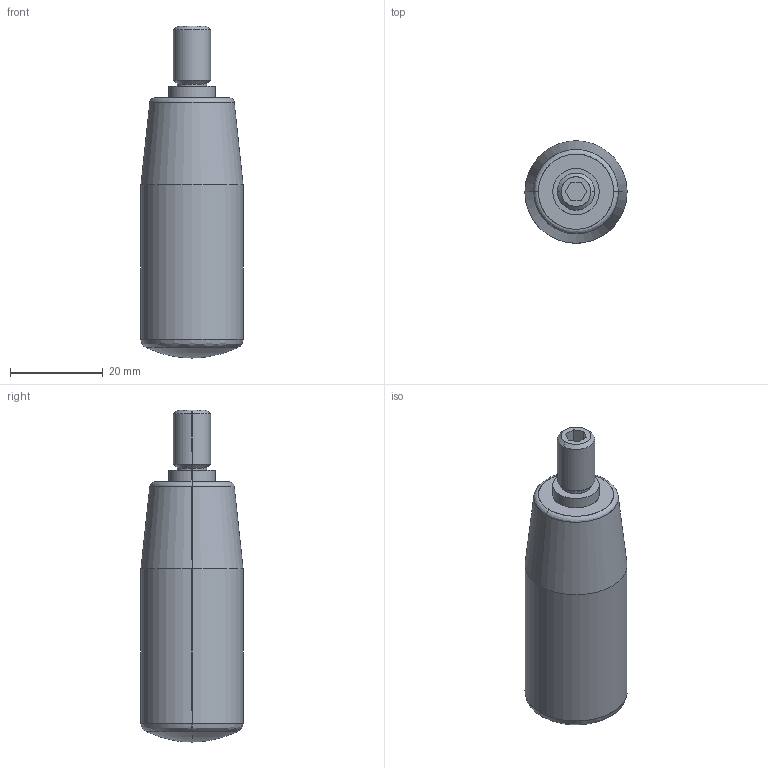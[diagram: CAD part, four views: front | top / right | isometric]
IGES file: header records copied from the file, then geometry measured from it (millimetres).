
Start section: SolidWorks IGES file using analytic representation for surfaces
Global section: file name: C:\HEMSIDA\cad\SLDPRT_2010\gn598\\gn598_56_m8.igs; native system: SolidWorks 2010; preprocessor: SolidWorks 2010; author: Administrator; date: 101001.152009; units: millimetre
Bounding box: 22 x 22 x 71.5 mm (x, y, z)
Surface area: 4657 mm2 (no closed solid volume)
Topology: 0 solids, 0 shells, 30 faces, 276 edges, 275 vertices
Faces by surface type: revolution 16, bspline 14
